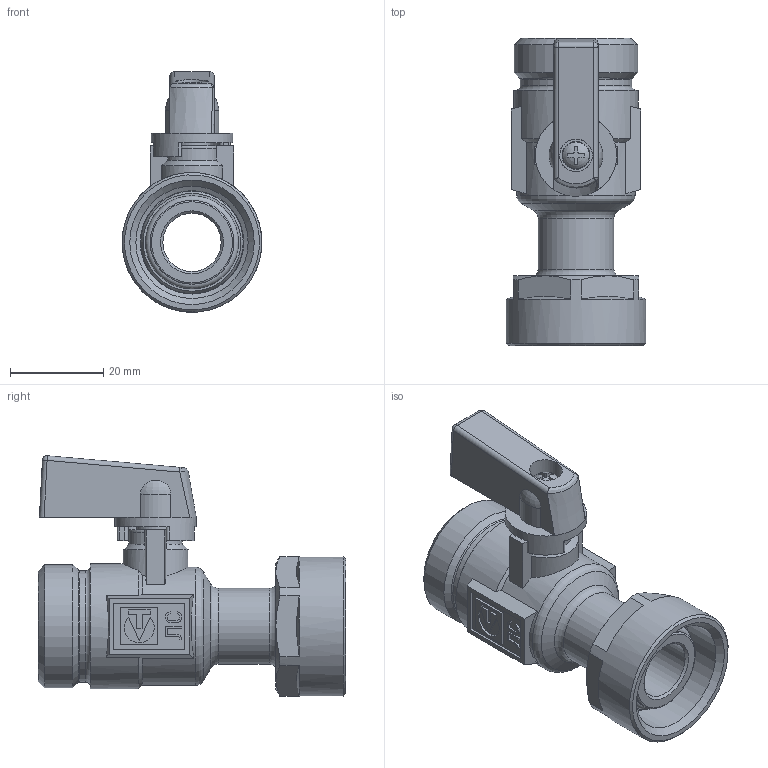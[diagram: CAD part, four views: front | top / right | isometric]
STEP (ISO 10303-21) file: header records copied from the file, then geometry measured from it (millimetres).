
FILE_DESCRIPTION(('STEP AP203'), '1');
FILE_NAME('VTc.720S.NE.0005', '', ('UNSPECIFIED'), ('UNSPECIFIED'), 'C3D Converter', 'C3D Toolkit', '');
FILE_SCHEMA(('CONFIG_CONTROL_DESIGN'));
Length unit declared in the file: millimetre
Products named in the file (1): ВР.491812.016.000 СБ
Bounding box: 30 x 66.02 x 51.61 mm (x, y, z)
Volume: 25292.1 mm3; surface area: 14527.5 mm2
Topology: 2 solids, 2 shells, 884 faces, 2493 edges, 1644 vertices
Faces by surface type: plane 780, cylinder 46, cone 30, torus 21, bspline 4, sphere 3
Full cylindrical faces by diameter (mm): 6 x1, 7 x1, 8 x1, 12.5 x1, 16.3 x1, 16.6 x1, 17.5 x1, 18 x1, 18.2 x1, 20.5 x1, 22 x1, 22.2 x2, 23.7 x1, 23.9 x1, 24.118 x1, 25.4 x1, 26.441 x1, 26.8 x1, 30 x1
Entity records: 29836 total; most frequent: CARTESIAN_POINT 7144, ORIENTED_EDGE 4884, DIRECTION 4289, EDGE_CURVE 2442, LINE 2203, VECTOR 2203, VERTEX_POINT 1644, AXIS2_PLACEMENT_3D 1043
